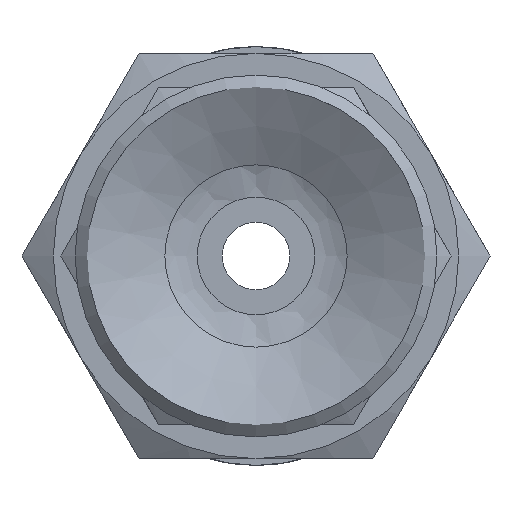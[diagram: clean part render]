
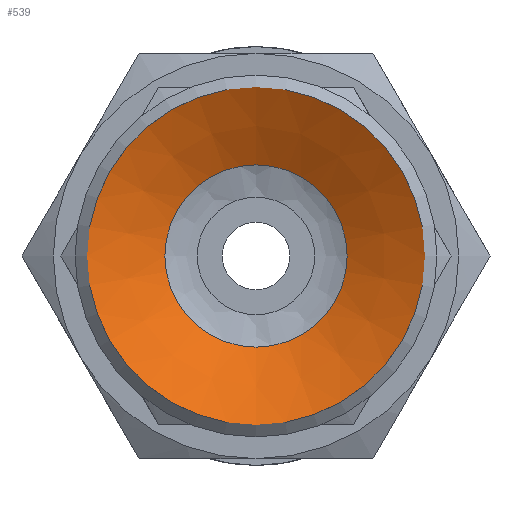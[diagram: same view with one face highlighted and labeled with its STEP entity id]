
A CAD part, front view. The second image highlights one B-rep face of the part: STEP entity #539.
In plain terms, the highlighted conical face has half-angle 61.39 degrees and reference radius 2.25 mm.
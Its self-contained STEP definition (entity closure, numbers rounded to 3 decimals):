
#539=ADVANCED_FACE('',(#809,#810),#811,.F.);
#809=FACE_BOUND('',#1164,.T.);
#810=FACE_OUTER_BOUND('',#1165,.T.);
#811=CONICAL_SURFACE('',#1166,2.25,1.071);
#1164=EDGE_LOOP('',(#2085));
#1165=EDGE_LOOP('',(#2086));
#1166=AXIS2_PLACEMENT_3D('',#2087,#2088,#2089);
#2085=ORIENTED_EDGE('',*,*,#2565,.T.);
#2086=ORIENTED_EDGE('',*,*,#2558,.T.);
#2087=CARTESIAN_POINT('',(0.0,1.5,0.0));
#2088=DIRECTION('',(-0.0,-1.0,0.));
#2089=DIRECTION('',(0.0,0.,-1.0));
#2558=EDGE_CURVE('',#2886,#2886,#2887,.T.);
#2565=EDGE_CURVE('',#2900,#2900,#2901,.T.);
#2886=VERTEX_POINT('',#3592);
#2887=CIRCLE('',#3593,5.);
#2900=VERTEX_POINT('',#3606);
#2901=CIRCLE('',#3607,2.698);
#3592=CARTESIAN_POINT('',(0.0,0.,-5.));
#3593=AXIS2_PLACEMENT_3D('',#4295,#4296,#4297);
#3606=CARTESIAN_POINT('',(0.0,1.256,-2.698));
#3607=AXIS2_PLACEMENT_3D('',#4316,#4317,#4318);
#4295=CARTESIAN_POINT('',(0.0,0.0,0.0));
#4296=DIRECTION('',(0.0,-1.0,0.));
#4297=DIRECTION('',(0.0,0.,-1.0));
#4316=CARTESIAN_POINT('',(0.0,1.256,0.0));
#4317=DIRECTION('',(0.0,1.0,0.));
#4318=DIRECTION('',(0.0,0.,-1.0));
